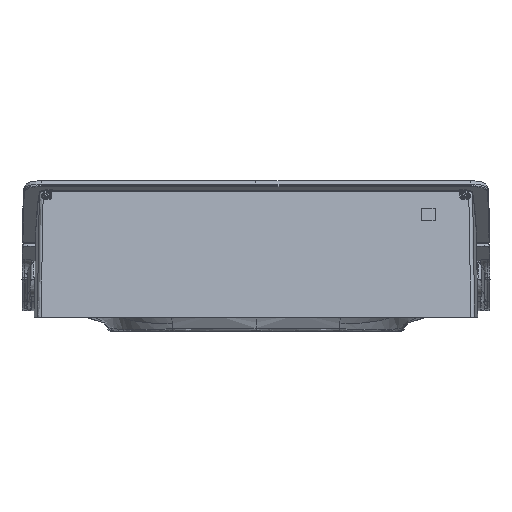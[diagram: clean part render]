
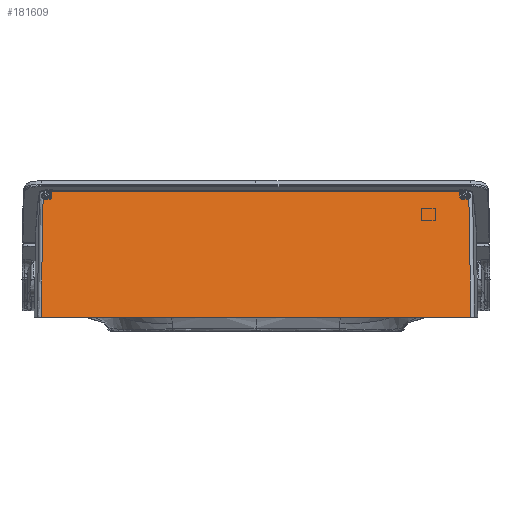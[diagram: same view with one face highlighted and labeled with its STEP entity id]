
A CAD part, left-side view. The second image highlights one B-rep face of the part: STEP entity #181609.
In plain terms, the highlighted planar face has unit normal (-0.987, 0, 0.163) as drawn and (0.987, 0, 0.163) by its records, which use the part's own axes.
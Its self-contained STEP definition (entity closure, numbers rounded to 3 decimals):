
#126335=CARTESIAN_POINT('',(105.207,159.2,67.218));
#126336=VERTEX_POINT('',#126335);
#126352=CARTESIAN_POINT('',(105.207,-159.2,67.218));
#126353=VERTEX_POINT('',#126352);
#126361=CARTESIAN_POINT('',(105.207,159.2,67.218));
#126362=DIRECTION('',(0.0,-1.0,0.0));
#126363=VECTOR('',#126362,318.4);
#126364=LINE('',#126361,#126363);
#126365=EDGE_CURVE('',#126353,#126336,#126364,.F.);
#131382=CARTESIAN_POINT('',(121.391,-167.707,-31.02));
#131383=VERTEX_POINT('',#131382);
#131384=CARTESIAN_POINT('',(106.201,-166.121,61.182));
#131385=VERTEX_POINT('',#131384);
#131386=CARTESIAN_POINT('',(121.391,-167.707,-31.02));
#131387=CARTESIAN_POINT('',(116.328,-167.178,-0.286));
#131388=CARTESIAN_POINT('',(111.265,-166.649,30.448));
#131389=CARTESIAN_POINT('',(106.201,-166.121,61.182));
#131390=B_SPLINE_CURVE_WITH_KNOTS('',3,(#131386,#131387,#131388,#131389),.UNSPECIFIED.,.F.,.U.,(4,4),(27.843,121.301),.UNSPECIFIED.);
#131391=EDGE_CURVE('',#131383,#131385,#131390,.T.);
#134776=CARTESIAN_POINT('',(121.391,167.707,-31.02));
#134777=VERTEX_POINT('',#134776);
#134791=CARTESIAN_POINT('',(121.391,167.707,-31.02));
#134792=DIRECTION('',(0.,-1.0,0.0));
#134793=VECTOR('',#134792,335.415);
#134794=LINE('',#134791,#134793);
#134795=EDGE_CURVE('',#134777,#131383,#134794,.T.);
#137078=CARTESIAN_POINT('',(106.201,166.121,61.182));
#137079=VERTEX_POINT('',#137078);
#137235=CARTESIAN_POINT('',(106.224,165.5,61.044));
#137236=VERTEX_POINT('',#137235);
#137246=CARTESIAN_POINT('',(105.97,165.5,62.585));
#137247=DIRECTION('',(-0.987,0.,-0.163));
#137248=DIRECTION('',(0.163,-0.003,-0.987));
#137249=AXIS2_PLACEMENT_3D('',#137246,#137247,#137248);
#137250=ELLIPSE('',#137249,1.562,1.499);
#137251=EDGE_CURVE('',#137236,#137079,#137250,.F.);
#143177=CARTESIAN_POINT('',(106.224,160.7,61.044));
#143178=VERTEX_POINT('',#143177);
#143187=CARTESIAN_POINT('',(106.224,165.5,61.044));
#143188=DIRECTION('',(0.0,-1.0,0.0));
#143189=VECTOR('',#143188,4.8);
#143190=LINE('',#143187,#143189);
#143191=EDGE_CURVE('',#143178,#137236,#143190,.F.);
#157075=CARTESIAN_POINT('',(105.97,159.2,62.587));
#157076=VERTEX_POINT('',#157075);
#157077=CARTESIAN_POINT('',(105.97,159.2,62.587));
#157078=DIRECTION('',(-0.163,0.0,0.987));
#157079=VECTOR('',#157078,4.693);
#157080=LINE('',#157077,#157079);
#157081=EDGE_CURVE('',#126336,#157076,#157080,.F.);
#157108=CARTESIAN_POINT('',(106.224,-165.5,61.044));
#157109=VERTEX_POINT('',#157108);
#157118=CARTESIAN_POINT('',(106.224,-160.7,61.044));
#157119=VERTEX_POINT('',#157118);
#157120=CARTESIAN_POINT('',(106.224,-160.7,61.044));
#157121=DIRECTION('',(0.0,-1.0,0.0));
#157122=VECTOR('',#157121,4.8);
#157123=LINE('',#157120,#157122);
#157124=EDGE_CURVE('',#157109,#157119,#157123,.F.);
#157218=CARTESIAN_POINT('',(105.97,-159.2,62.587));
#157219=VERTEX_POINT('',#157218);
#157241=CARTESIAN_POINT('',(105.97,-159.2,62.587));
#157242=CARTESIAN_POINT('',(106.011,-159.2,62.336));
#157243=CARTESIAN_POINT('',(106.052,-159.249,62.086));
#157244=CARTESIAN_POINT('',(106.092,-159.348,61.847));
#157245=CARTESIAN_POINT('',(106.158,-159.622,61.446));
#157246=CARTESIAN_POINT('',(106.202,-160.03,61.177));
#157247=CARTESIAN_POINT('',(106.217,-160.245,61.088));
#157248=CARTESIAN_POINT('',(106.224,-160.473,61.044));
#157249=CARTESIAN_POINT('',(106.224,-160.7,61.044));
#157250=B_SPLINE_CURVE_WITH_KNOTS('',5,(#157241,#157242,#157243,#157244,#157245,#157246,#157247,#157248,#157249),.UNSPECIFIED.,.F.,.U.,(6,3,6),(5.832,6.844,7.737),.UNSPECIFIED.);
#157251=EDGE_CURVE('',#157119,#157219,#157250,.F.);
#172745=CARTESIAN_POINT('',(105.207,-159.2,67.218));
#172746=DIRECTION('',(0.163,0.0,-0.987));
#172747=VECTOR('',#172746,4.693);
#172748=LINE('',#172745,#172747);
#172749=EDGE_CURVE('',#157219,#126353,#172748,.F.);
#177216=CARTESIAN_POINT('',(106.224,160.7,61.044));
#177217=CARTESIAN_POINT('',(106.224,160.42,61.044));
#177218=CARTESIAN_POINT('',(106.213,160.14,61.111));
#177219=CARTESIAN_POINT('',(106.191,159.884,61.245));
#177220=CARTESIAN_POINT('',(106.138,159.513,61.567));
#177221=CARTESIAN_POINT('',(106.067,159.294,61.995));
#177222=CARTESIAN_POINT('',(106.036,159.231,62.188));
#177223=CARTESIAN_POINT('',(106.003,159.2,62.388));
#177224=CARTESIAN_POINT('',(105.97,159.2,62.587));
#177225=B_SPLINE_CURVE_WITH_KNOTS('',5,(#177216,#177217,#177218,#177219,#177220,#177221,#177222,#177223,#177224),.UNSPECIFIED.,.F.,.U.,(6,3,6),(2.916,4.017,4.823),.UNSPECIFIED.);
#177226=EDGE_CURVE('',#157076,#143178,#177225,.F.);
#181156=CARTESIAN_POINT('',(105.972,-165.503,62.572));
#181157=DIRECTION('',(-0.987,0.,-0.163));
#181158=DIRECTION('',(0.162,0.028,-0.986));
#181159=AXIS2_PLACEMENT_3D('',#181156,#181157,#181158);
#181160=ELLIPSE('',#181159,1.549,1.492);
#181161=EDGE_CURVE('',#131385,#157109,#181160,.F.);
#181585=CARTESIAN_POINT('',(121.717,0.,-32.998));
#181586=DIRECTION('',(-0.987,0.,-0.163));
#181587=DIRECTION('',(-0.163,0.0,0.987));
#181588=AXIS2_PLACEMENT_3D('',#181585,#181586,#181587);
#181589=PLANE('',#181588);
#181590=ORIENTED_EDGE('',*,*,#177226,.F.);
#181591=ORIENTED_EDGE('',*,*,#157081,.F.);
#181592=ORIENTED_EDGE('',*,*,#126365,.F.);
#181593=ORIENTED_EDGE('',*,*,#172749,.F.);
#181594=ORIENTED_EDGE('',*,*,#157251,.F.);
#181595=ORIENTED_EDGE('',*,*,#157124,.F.);
#181596=ORIENTED_EDGE('',*,*,#181161,.F.);
#181597=ORIENTED_EDGE('',*,*,#131391,.F.);
#181598=ORIENTED_EDGE('',*,*,#134795,.F.);
#181599=CARTESIAN_POINT('',(106.201,166.121,61.182));
#181600=DIRECTION('',(0.163,0.017,-0.987));
#181601=VECTOR('',#181600,93.459);
#181602=LINE('',#181599,#181601);
#181603=EDGE_CURVE('',#137079,#134777,#181602,.T.);
#181604=ORIENTED_EDGE('',*,*,#181603,.F.);
#181605=ORIENTED_EDGE('',*,*,#137251,.F.);
#181606=ORIENTED_EDGE('',*,*,#143191,.F.);
#181607=EDGE_LOOP('',(#181590,#181591,#181592,#181593,#181594,#181595,#181596,#181597,#181598,#181604,#181605,#181606));
#181608=FACE_OUTER_BOUND('',#181607,.T.);
#181609=ADVANCED_FACE('',(#181608),#181589,.F.);
